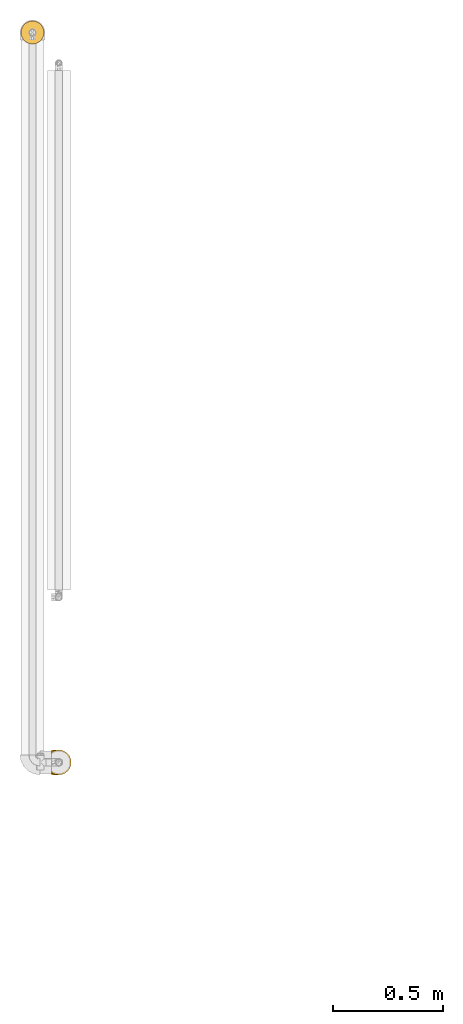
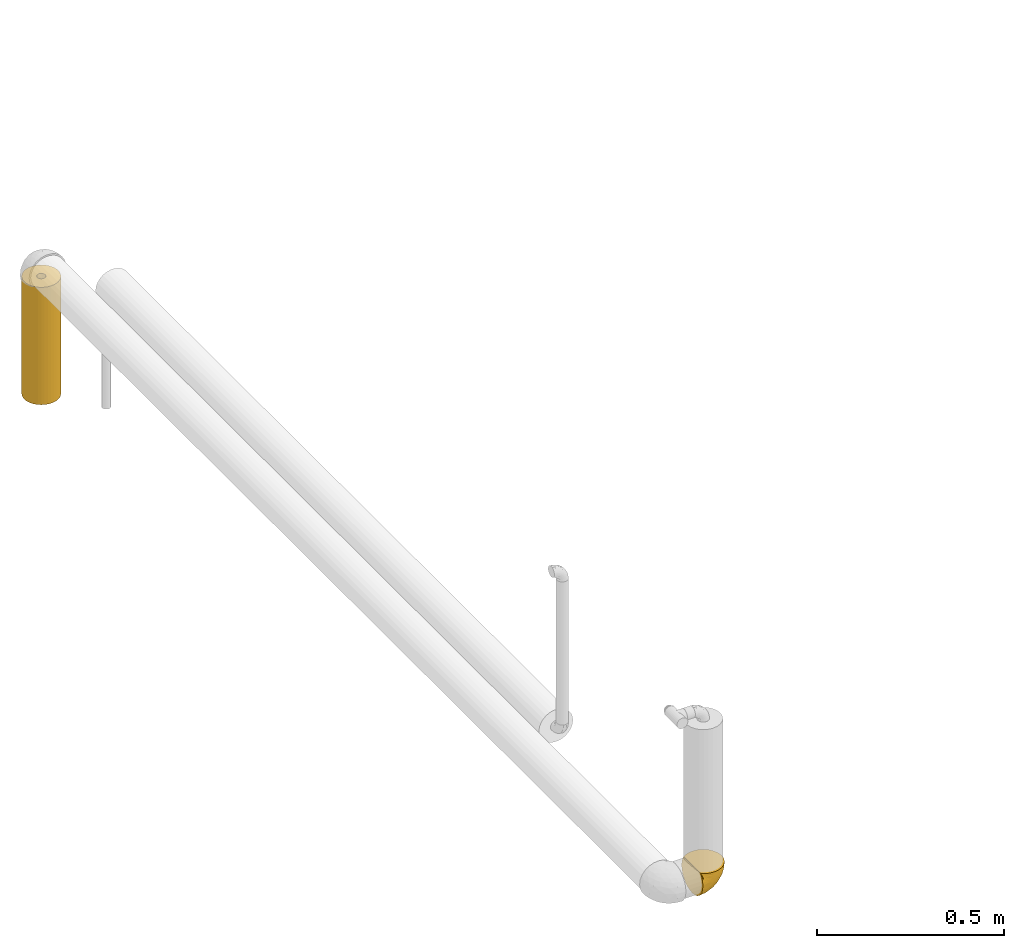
# One storey, part 2 of 17: 2 coverings.
"""IFC2X3 building model written with IfcOpenShell, lengths in millimetres."""

from ifc_helpers import new_model, entity, si_unit, converted_unit, derived_unit, direction, frame, origin_with_axes, place, context, subcontext, project, spatial, open_shell, faceted_brep, surface_model, source, transform, mapped, element, save


model = new_model("IFC2X3")

# Units and contexts
model_context = context("Model", 3, precision=0.01, world=frame((0.0, 4.29681676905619e-09, 0.0)), true_north=direction((4.01073788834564e-13, 1.0)))
plan_context = context("Plan", 3, precision=0.01, world=frame((0.0, 4.29681676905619e-09, 0.0)), true_north=direction((4.01073788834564e-13, 1.0)))
body_context = subcontext(model_context, "Body", "Model", "MODEL_VIEW")
ifc_project = project(units=[converted_unit("PLANEANGLEUNIT", "DEGREE", entity("IfcPositiveLengthMeasure", 0.0174532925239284), si_unit("PLANEANGLEUNIT", "RADIAN"), dimensions=[0, 0, 0, 0, 0, 0, 0]), si_unit("AREAUNIT", "SQUARE_METRE"), si_unit("LENGTHUNIT", "METRE", prefix="MILLI"), si_unit("MASSUNIT", "GRAM", prefix="KILO"), si_unit("POWERUNIT", "WATT"), si_unit("PRESSUREUNIT", "PASCAL", prefix="KILO"), si_unit("FORCEUNIT", "NEWTON", prefix="KILO"), si_unit("ELECTRICVOLTAGEUNIT", "VOLT"), si_unit("ELECTRICCURRENTUNIT", "AMPERE"), si_unit("THERMODYNAMICTEMPERATUREUNIT", "DEGREE_CELSIUS"), si_unit("TIMEUNIT", "SECOND"), si_unit("VOLUMEUNIT", "CUBIC_METRE"), derived_unit("LINEARVELOCITYUNIT", [(si_unit("LENGTHUNIT", "METRE"), 1), (si_unit("TIMEUNIT", "SECOND"), -1)]), derived_unit("VOLUMETRICFLOWRATEUNIT", [(si_unit("VOLUMEUNIT", "CUBIC_METRE"), 1), (si_unit("TIMEUNIT", "SECOND"), -1)]), derived_unit("THERMALTRANSMITTANCEUNIT", [(si_unit("POWERUNIT", "WATT"), 1), (si_unit("THERMODYNAMICTEMPERATUREUNIT", "KELVIN"), -1), (si_unit("AREAUNIT", "SQUARE_METRE"), -1)]), derived_unit("SOUNDPRESSUREUNIT", [(si_unit("PRESSUREUNIT", "PASCAL"), 1)])], contexts=[model_context, plan_context])

# Site, building, storey
site_placement = place(None, frame((0.0, -4.29681676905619e-09, 0.0), z_axis=(0.0, 0.0, 1.0), x_axis=(1.0, 0.0, 0.0)))
site = spatial("IfcSite", under=ifc_project, at=site_placement, Name="ENGM", CompositionType="ELEMENT")
building_placement = place(site_placement, frame((0.0, 4.29681676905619e-09, 0.0), z_axis=(0.0, 0.0, 1.0), x_axis=(1.0, 0.0, 0.0)))
building = spatial("IfcBuilding", under=site, at=building_placement, Name="TI", CompositionType="ELEMENT")
storey_placement = place(building_placement, frame((0.0, 0.0, 207370.0), z_axis=(0.0, 0.0, 1.0), x_axis=(1.0, 0.0, 0.0)))
storey = spatial("IfcBuildingStorey", under=building, at=storey_placement, Name="Nivå E", CompositionType="ELEMENT", Elevation=207370.0)

# Coverings
shared_shape = source(origin_with_axes(), body_context, "Body", "SurfaceModel", [
    surface_model("IfcShellBasedSurfaceModel", [(24.69442, 33.8, 51.26203), (35.48425, 33.8, 44.48008), (51.27108, 33.8, 24.67561), (44.4937, 33.8, 35.46718), (0.0, 33.8, 56.9), (12.66523, 33.8, 55.47253), (-33.34059, 33.8, -46.10873), (56.9, 33.8, 0.0), (55.47253, 33.8, -12.66523), (44.48008, 33.8, -35.48425), (51.26203, 33.8, -24.69442), (35.46718, 33.8, -44.4937), (-23.07704, 33.8, -52.01019), (-11.7964, 33.8, -55.66377), (24.67561, 33.8, -51.27108), (12.64674, 33.8, -55.47675), (0.0, 33.8, -56.9), (55.47675, 33.8, 12.64674), (-33.8, 33.34059, 46.10873), (-33.8, 33.34059, -46.10873), (-33.8, 23.06476, -52.01564), (-33.8, 11.78813, -55.66552), (-33.8, 0.0, -56.9), (-33.8, 0.0, 56.9), (-33.8, 23.06476, 52.01564), (-33.8, 11.78813, 55.66552), (-33.8, -14.7268, 54.96118), (-33.8, -14.7268, -54.96118), (-33.8, -28.45, -49.27684), (-33.8, -40.23438, -40.23438), (-33.8, -49.27684, -28.45), (-33.8, -54.96118, -14.7268), (-33.8, -54.96118, 14.7268), (-33.8, -40.23438, 40.23438), (-33.8, -28.45, 49.27684), (-33.8, -49.27684, 28.45), (-33.8, -56.9, 0.0), (-33.47515, 33.47515, 46.10873), (-33.47515, 33.47515, -46.10873), (-33.34059, 33.8, 46.10873), (-32.08364, 25.44579, -50.9801), (-33.67665, 33.39168, -46.10873), (-30.83312, 26.67841, -50.56853), (-15.87334, 20.68765, -55.70718), (-10.71417, 10.71417, -56.9), (-22.5985, 20.69411, -54.43708), (-25.35, 2.26417, -56.9), (-28.51435, 18.40378, -54.135), (-23.15334, 12.21937, -56.06086), (-33.43341, 33.5759, -46.10873), (-33.39168, 33.67665, -46.10873), (-18.4122, 28.52188, -54.13163), (-25.86292, 27.59402, -51.71796), (-10.594, 29.15837, -55.99022), (-2.26417, 25.35, -56.9), (-33.5759, 33.43341, -46.10873), (-9.88716, 23.89498, -56.34654), (-4.52834, 16.9, -56.9), (-26.53944, 21.15799, -53.5551), (-29.02753, 27.72284, -50.57484), (-16.9, 4.52834, -56.9), (-1.89548, 26.72596, -56.9), (-21.08164, -9.83471, -55.69449), (-12.19459, -6.31894, -55.67005), (1.29929, -23.83547, -45.86), (-3.44185, -39.07106, -34.63852), (-16.08681, -32.30654, -45.14181), (-12.53249, -17.54431, -52.56875), (-24.14956, -20.93038, -52.56875), (19.51212, -39.57784, 0.0), (-5.77216, -52.46082, 0.0), (2.43768, -47.9375, -12.04628), (27.50756, -27.50756, -20.95211), (9.13936, -40.31341, -23.42618), (12.63976, -31.02468, -33.56907), (29.0814, 21.55934, -48.18545), (17.10597, 20.64085, -53.71172), (-15.67837, -54.0783, -10.47602), (-20.00402, -43.92696, -34.63852), (-11.38936, -49.61057, -21.77469), (25.8449, -21.54003, -31.23005), (42.40332, -10.087, -17.51383), (18.75415, -18.3345, -40.2421), (10.4419, -13.49624, -47.73768), (21.60417, -5.46943, -45.54281), (9.23089, 7.63542, -54.43656), (24.82732, 7.97866, -48.18545), (37.87075, 15.27302, -40.2421), (-0.20989, 3.79953, -55.7794), (50.92012, 11.89905, -18.79808), (30.72116, -7.8177, -37.28829), (41.22013, 0.75864, -30.27981), (46.66377, 18.13685, -30.27981), (18.39178, -38.38046, -13.50943), (32.12068, -27.27232, -9.7235), (52.46082, 5.77216, 0.0), (39.57784, -19.51212, 0.0), (-26.72596, 1.89548, -56.9), (1.285, -6.94906, -53.27967), (24.84384, 7.9713, 48.17409), (29.09917, 21.55599, 48.17409), (17.12404, 20.63566, 53.70514), (-16.07985, -54.20588, 10.23371), (-2.14575, -46.559, 21.77469), (1.72334, -48.57904, 10.55822), (14.17314, -39.78008, 17.81974), (-19.63149, -51.39867, 21.77469), (31.54782, -1.01192, 40.22682), (30.88333, -13.90178, 32.6927), (41.23057, 0.75415, 30.26172), (18.76512, -18.34538, 40.22666), (20.72445, -26.00089, 31.88611), (50.9267, 11.89822, 18.77928), (-16.6221, -7.67112, 55.80919), (-16.9, 4.52834, 56.9), (-25.35, 2.26417, 56.9), (-13.80199, -42.5668, 34.63852), (-21.83958, -33.58531, 45.14181), (-19.37969, -19.87123, 52.56875), (7.60894, -34.46398, 33.43332), (-7.48103, -29.3755, 45.14181), (26.00634, -33.17128, 10.14462), (27.51051, -27.51051, 20.94155), (-25.39793, -9.93514, 55.87819), (46.67489, 18.13455, 30.26172), (-1.12035, 1.70754, 55.61965), (-4.52834, 16.9, 56.9), (-10.71417, 10.71417, 56.9), (42.40865, -10.09182, 17.4921), (37.8857, 15.26915, 40.22666), (9.23512, 7.61904, 54.43287), (-1.89548, 26.72596, 56.9), (6.61304, -17.87206, 47.18516), (-9.78518, -15.45307, 52.88466), (14.61926, -5.8279, 49.09168), (-9.48758, -2.99227, 55.96008), (7.94789, -26.49594, 40.91874), (-1.31124, -9.39277, 53.17563), (-29.15757, 10.59376, 55.9903), (-23.89175, 9.87937, 56.34772), (-24.61782, 17.65103, 54.82579), (-29.75291, 25.81063, 51.18968), (-28.51435, 18.40378, 54.135), (-15.87334, 20.68765, 55.70718), (-25.86292, 27.59402, 51.71796), (-22.5985, 20.69411, 54.43708), (-26.85079, 30.69652, 50.51467), (-33.39168, 33.67665, 46.10873), (-33.43341, 33.5759, 46.10873), (-11.775, 33.8, 55.6683), (-23.05704, 33.8, 52.01906), (-25.55723, 31.93363, 50.94173), (-18.39517, 28.5074, 54.13837), (-2.26417, 25.35, 56.9), (-33.67665, 33.39168, 46.10873), (-28.3466, 27.59544, 50.84629), (-33.5759, 33.43341, 46.10873)], [open_shell([[[0, 1, 2]], [[2, 1, 3]], [[4, 5, 0]], [[6, 7, 8]], [[6, 8, 9]], [[9, 8, 10]], [[6, 9, 11]], [[12, 6, 13]], [[14, 6, 11]], [[15, 6, 14]], [[16, 13, 6]], [[16, 6, 15]], [[7, 6, 17]], [[18, 19, 20]], [[21, 22, 20]], [[23, 20, 22]], [[24, 18, 25]], [[20, 25, 18]], [[20, 23, 25]], [[22, 26, 23]], [[22, 27, 26]], [[27, 28, 29]], [[29, 30, 31]], [[29, 31, 27]], [[27, 31, 32]], [[33, 34, 32]], [[33, 32, 35]], [[34, 27, 32]], [[31, 36, 32]], [[27, 34, 26]], [[19, 18, 37]], [[38, 19, 37]], [[39, 6, 37]], [[38, 37, 6]], [[40, 41, 42]], [[43, 44, 45]], [[46, 47, 48]], [[49, 50, 51]], [[19, 41, 40]], [[21, 20, 40]], [[52, 38, 49]], [[13, 53, 12]], [[49, 51, 52]], [[43, 45, 52]], [[12, 50, 6]], [[53, 16, 54]], [[41, 55, 42]], [[43, 56, 57]], [[12, 51, 50]], [[56, 53, 54]], [[48, 47, 58]], [[57, 56, 54]], [[52, 45, 59]], [[51, 56, 43]], [[51, 43, 52]], [[44, 60, 45]], [[43, 57, 44]], [[19, 40, 20]], [[42, 58, 47]], [[58, 59, 45]], [[40, 42, 47]], [[38, 59, 55]], [[59, 42, 55]], [[48, 45, 60]], [[59, 58, 42]], [[52, 59, 38]], [[45, 48, 58]], [[46, 22, 21]], [[46, 21, 47]], [[48, 60, 46]], [[53, 56, 51]], [[12, 53, 51]], [[53, 13, 16]], [[61, 16, 15]], [[62, 60, 63]], [[64, 65, 66]], [[67, 68, 62]], [[69, 70, 71]], [[72, 73, 74]], [[75, 76, 14]], [[68, 28, 27]], [[31, 77, 36]], [[28, 66, 29]], [[78, 30, 29]], [[28, 68, 66]], [[71, 79, 73]], [[30, 78, 79]], [[72, 80, 81]], [[82, 83, 84]], [[85, 57, 76]], [[76, 86, 85]], [[87, 86, 75]], [[87, 11, 9]], [[76, 57, 61]], [[76, 15, 14]], [[44, 88, 63]], [[89, 10, 8]], [[90, 87, 91]], [[92, 87, 9]], [[81, 91, 89]], [[69, 93, 94]], [[90, 91, 80]], [[30, 79, 31]], [[9, 10, 92]], [[8, 95, 89]], [[8, 7, 95]], [[91, 92, 89]], [[72, 74, 80]], [[81, 95, 96]], [[73, 79, 65]], [[14, 11, 75]], [[77, 79, 71]], [[61, 15, 76]], [[64, 66, 67]], [[78, 66, 65]], [[27, 22, 97]], [[86, 90, 84]], [[85, 98, 88]], [[89, 92, 10]], [[87, 92, 91]], [[87, 75, 11]], [[76, 75, 86]], [[95, 81, 89]], [[94, 81, 96]], [[98, 64, 67]], [[64, 82, 74]], [[63, 67, 62]], [[85, 86, 84]], [[74, 73, 65]], [[73, 93, 71]], [[73, 72, 93]], [[77, 71, 70]], [[36, 77, 70]], [[31, 79, 77]], [[94, 93, 72]], [[69, 71, 93]], [[81, 94, 72]], [[69, 94, 96]], [[64, 74, 65]], [[85, 88, 57]], [[74, 82, 80]], [[90, 80, 82]], [[81, 80, 91]], [[84, 90, 82]], [[87, 90, 86]], [[83, 82, 64]], [[84, 83, 85]], [[64, 98, 83]], [[85, 83, 98]], [[66, 78, 29]], [[79, 78, 65]], [[62, 27, 97]], [[66, 68, 67]], [[27, 62, 68]], [[60, 62, 97]], [[44, 63, 60]], [[98, 67, 63]], [[63, 88, 98]], [[57, 88, 44]], [[99, 100, 101]], [[36, 70, 102]], [[103, 104, 105]], [[102, 103, 106]], [[107, 108, 109]], [[35, 32, 106]], [[110, 111, 108]], [[2, 112, 17]], [[113, 114, 115]], [[95, 17, 112]], [[106, 116, 35]], [[103, 102, 104]], [[33, 117, 34]], [[34, 117, 118]], [[0, 5, 101]], [[119, 120, 116]], [[121, 122, 105]], [[118, 113, 123]], [[2, 3, 124]], [[34, 118, 26]], [[125, 126, 127]], [[112, 2, 124]], [[7, 17, 95]], [[128, 112, 109]], [[108, 128, 109]], [[3, 1, 129]], [[130, 99, 101]], [[109, 124, 129]], [[1, 0, 100]], [[109, 129, 107]], [[101, 126, 130]], [[33, 35, 116]], [[119, 103, 105]], [[100, 129, 1]], [[107, 129, 99]], [[5, 4, 131]], [[126, 101, 131]], [[112, 128, 95]], [[120, 132, 133]], [[5, 131, 101]], [[110, 134, 132]], [[134, 99, 130]], [[119, 116, 103]], [[117, 116, 120]], [[127, 135, 125]], [[134, 110, 107]], [[113, 135, 114]], [[26, 123, 23]], [[136, 110, 132]], [[101, 100, 0]], [[129, 100, 99]], [[129, 124, 3]], [[112, 124, 109]], [[121, 128, 122]], [[95, 128, 96]], [[125, 134, 130]], [[135, 127, 114]], [[132, 134, 137]], [[123, 113, 115]], [[133, 113, 118]], [[23, 123, 115]], [[118, 123, 26]], [[134, 107, 99]], [[108, 107, 110]], [[110, 136, 111]], [[128, 108, 122]], [[105, 111, 119]], [[122, 108, 111]], [[133, 132, 137]], [[136, 120, 119]], [[116, 117, 33]], [[118, 117, 120]], [[120, 133, 118]], [[135, 133, 137]], [[133, 135, 113]], [[135, 137, 125]], [[134, 125, 137]], [[126, 125, 130]], [[102, 106, 32]], [[116, 106, 103]], [[36, 102, 32]], [[102, 70, 104]], [[70, 69, 104]], [[121, 105, 104]], [[121, 104, 69]], [[105, 122, 111]], [[69, 96, 121]], [[128, 121, 96]], [[120, 136, 132]], [[111, 136, 119]], [[115, 138, 23]], [[114, 139, 115]], [[140, 141, 142]], [[143, 144, 145]], [[146, 147, 148]], [[25, 138, 24]], [[149, 150, 151]], [[143, 152, 144]], [[152, 153, 149]], [[154, 18, 24]], [[153, 4, 149]], [[146, 151, 147]], [[37, 144, 148]], [[139, 138, 115]], [[139, 140, 142]], [[142, 154, 24]], [[141, 154, 142]], [[155, 156, 141]], [[145, 127, 143]], [[39, 147, 151]], [[146, 144, 152]], [[144, 146, 148]], [[152, 143, 126]], [[127, 145, 114]], [[127, 126, 143]], [[151, 146, 152]], [[149, 151, 152]], [[39, 151, 150]], [[152, 126, 153]], [[140, 114, 145]], [[138, 139, 142]], [[24, 138, 142]], [[138, 25, 23]], [[114, 140, 139]], [[155, 144, 37]], [[145, 144, 155]], [[145, 141, 140]], [[154, 141, 156]], [[156, 155, 37]], [[141, 145, 155]], [[21, 40, 47]], [[6, 150, 149]], [[149, 0, 6]], [[39, 150, 6]], [[2, 6, 0]], [[149, 4, 0]], [[17, 6, 2]]])]),
])
covering_1_placement = place(storey_placement, frame((585389.97776, 570723.24678, 2946.92527000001), z_axis=(0.0, 1.0, 0.0), x_axis=(0.0, 0.0, -1.0)))
element("IfcCovering", 1, at=covering_1_placement, inside=storey, Name="BI11T - Rørskål m/Al.folie - varme 60-25", PredefinedType="INSULATION", context=body_context, shape_type="MappedRepresentation", body=[
    mapped(shared_shape, transform((0.0, 0.0, 0.0), scale=1.0)),
])
covering_2_placement = place(storey_placement, frame((585269.96633, 574054.33025, 2135.60000000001), z_axis=(0.0, 1.0, 0.0), x_axis=(0.0, 0.0, 1.0)))
element("IfcCovering", 2, at=covering_2_placement, inside=storey, Name="BI11T - Rørskål m/Al.folie - varme 60-25", PredefinedType="INSULATION", context=body_context, shape_type="Brep", body=[
    faceted_brep([(394.399999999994, 12.3100969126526, -2.17060222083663), (394.399999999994, 12.5, 0.0), (777.5, 12.5, 0.0), (777.5, 12.3100969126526, -2.17060222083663), (394.399999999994, 11.7461577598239, -4.27525179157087), (777.5, 11.7461577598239, -4.27525179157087), (394.399999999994, 10.8253175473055, -6.25000000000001), (777.5, 10.8253175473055, -6.25000000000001), (394.399999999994, 9.57555553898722, -8.03484512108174), (777.5, 9.57555553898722, -8.03484512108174), (394.399999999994, 8.03484512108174, -9.57555553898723), (777.5, 8.03484512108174, -9.57555553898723), (394.399999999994, 6.25, -10.8253175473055), (777.5, 6.25, -10.8253175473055), (394.399999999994, 4.27525179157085, -11.7461577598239), (777.5, 4.27525179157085, -11.7461577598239), (394.399999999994, 2.17060222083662, -12.3100969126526), (777.5, 2.17060222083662, -12.3100969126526), (394.399999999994, -2.29621274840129e-15, -12.5), (777.5, -2.29621274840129e-15, -12.5), (394.399999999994, -2.17060222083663, -12.3100969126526), (777.5, -2.17060222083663, -12.3100969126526), (394.399999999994, -4.27525179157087, -11.7461577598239), (777.5, -4.27525179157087, -11.7461577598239), (394.399999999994, -6.25000000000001, -10.8253175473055), (777.5, -6.25000000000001, -10.8253175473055), (394.399999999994, -8.03484512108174, -9.57555553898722), (777.5, -8.03484512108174, -9.57555553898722), (394.399999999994, -9.57555553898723, -8.03484512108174), (777.5, -9.57555553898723, -8.03484512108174), (394.399999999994, -10.8253175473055, -6.25), (777.5, -10.8253175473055, -6.25), (394.399999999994, -11.7461577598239, -4.27525179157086), (777.5, -11.7461577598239, -4.27525179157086), (394.399999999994, -12.3100969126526, -2.17060222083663), (777.5, -12.3100969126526, -2.17060222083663), (394.399999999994, -12.5, 1.53080849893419e-15), (777.5, -12.5, 1.53080849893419e-15), (394.399999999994, -12.3100969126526, 2.17060222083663), (777.5, -12.3100969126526, 2.17060222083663), (394.399999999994, -11.7461577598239, 4.27525179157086), (777.5, -11.7461577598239, 4.27525179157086), (394.399999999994, -10.8253175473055, 6.25), (777.5, -10.8253175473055, 6.25), (394.399999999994, -9.57555553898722, 8.03484512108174), (777.5, -9.57555553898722, 8.03484512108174), (394.399999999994, -8.03484512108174, 9.57555553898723), (777.5, -8.03484512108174, 9.57555553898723), (394.399999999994, -6.25, 10.8253175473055), (777.5, -6.25, 10.8253175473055), (394.399999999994, -4.27525179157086, 11.7461577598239), (777.5, -4.27525179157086, 11.7461577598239), (394.399999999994, -2.17060222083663, 12.3100969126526), (777.5, -2.17060222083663, 12.3100969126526), (394.399999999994, 7.65404249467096e-16, 12.5), (777.5, 7.65404249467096e-16, 12.5), (394.399999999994, 2.17060222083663, 12.3100969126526), (777.5, 2.17060222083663, 12.3100969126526), (394.399999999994, 4.27525179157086, 11.7461577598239), (777.5, 4.27525179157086, 11.7461577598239), (394.399999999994, 6.25, 10.8253175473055), (777.5, 6.25, 10.8253175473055), (394.399999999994, 8.03484512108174, 9.57555553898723), (777.5, 8.03484512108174, 9.57555553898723), (394.399999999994, 9.57555553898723, 8.03484512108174), (777.5, 9.57555553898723, 8.03484512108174), (394.399999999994, 10.8253175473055, 6.25), (777.5, 10.8253175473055, 6.25), (394.399999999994, 11.7461577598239, 4.27525179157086), (777.5, 11.7461577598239, 4.27525179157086), (394.399999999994, 12.3100969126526, 2.17060222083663), (777.5, 12.3100969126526, 2.17060222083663), (394.399999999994, 52.5, 0.0), (394.399999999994, 51.7024070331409, -9.11652932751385), (777.5, 51.7024070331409, -9.11652932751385), (777.5, 52.5, 0.0), (394.399999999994, 51.7024070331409, 9.11652932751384), (777.5, 51.7024070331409, 9.11652932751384), (394.399999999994, 49.3338625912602, 17.9560575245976), (777.5, 49.3338625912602, 17.9560575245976), (394.399999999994, 45.466333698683, 26.25), (777.5, 45.466333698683, 26.25), (394.399999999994, 40.2173332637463, 33.7463495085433), (777.5, 40.2173332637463, 33.7463495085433), (394.399999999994, 33.7463495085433, 40.2173332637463), (777.5, 33.7463495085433, 40.2173332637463), (394.399999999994, 26.25, 45.466333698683), (777.5, 26.25, 45.466333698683), (394.399999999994, 17.9560575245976, 49.3338625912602), (777.5, 17.9560575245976, 49.3338625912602), (394.399999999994, 9.11652932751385, 51.7024070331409), (777.5, 9.11652932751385, 51.7024070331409), (394.399999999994, 3.2146978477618e-15, 52.5), (777.5, 3.2146978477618e-15, 52.5), (394.399999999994, -9.11652932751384, 51.7024070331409), (777.5, -9.11652932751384, 51.7024070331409), (394.399999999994, -17.9560575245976, 49.3338625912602), (777.5, -17.9560575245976, 49.3338625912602), (394.399999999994, -26.25, 45.466333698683), (777.5, -26.25, 45.466333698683), (394.399999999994, -33.7463495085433, 40.2173332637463), (777.5, -33.7463495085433, 40.2173332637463), (394.399999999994, -40.2173332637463, 33.7463495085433), (777.5, -40.2173332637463, 33.7463495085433), (394.399999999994, -45.466333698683, 26.25), (777.5, -45.466333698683, 26.25), (394.399999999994, -49.3338625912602, 17.9560575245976), (777.5, -49.3338625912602, 17.9560575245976), (394.399999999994, -51.7024070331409, 9.11652932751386), (777.5, -51.7024070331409, 9.11652932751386), (394.399999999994, -52.5, 6.4293956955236e-15), (777.5, -52.5, 6.4293956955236e-15), (394.399999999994, -51.7024070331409, -9.11652932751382), (777.5, -51.7024070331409, -9.11652932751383), (394.399999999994, -49.3338625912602, -17.9560575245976), (777.5, -49.3338625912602, -17.9560575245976), (394.399999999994, -45.466333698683, -26.25), (777.5, -45.466333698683, -26.25), (394.399999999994, -40.2173332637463, -33.7463495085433), (777.5, -40.2173332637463, -33.7463495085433), (394.399999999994, -33.7463495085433, -40.2173332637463), (777.5, -33.7463495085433, -40.2173332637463), (394.399999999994, -26.25, -45.466333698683), (777.5, -26.25, -45.466333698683), (394.399999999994, -17.9560575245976, -49.3338625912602), (777.5, -17.9560575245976, -49.3338625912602), (394.399999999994, -9.11652932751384, -51.7024070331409), (777.5, -9.11652932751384, -51.7024070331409), (394.399999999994, -9.64409354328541e-15, -52.5), (777.5, -9.64409354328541e-15, -52.5), (394.399999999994, 9.11652932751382, -51.7024070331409), (777.5, 9.11652932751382, -51.7024070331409), (394.399999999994, 17.9560575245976, -49.3338625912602), (777.5, 17.9560575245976, -49.3338625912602), (394.399999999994, 26.25, -45.466333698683), (777.5, 26.25, -45.466333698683), (394.399999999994, 33.7463495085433, -40.2173332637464), (777.5, 33.7463495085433, -40.2173332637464), (394.399999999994, 40.2173332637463, -33.7463495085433), (777.5, 40.2173332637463, -33.7463495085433), (394.399999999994, 45.466333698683, -26.25), (777.5, 45.466333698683, -26.25), (394.399999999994, 49.3338625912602, -17.9560575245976), (777.5, 49.3338625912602, -17.9560575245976)], [[[0, 1, 2, 3]], [[4, 0, 3, 5]], [[6, 4, 5, 7]], [[8, 6, 7, 9]], [[10, 8, 9, 11]], [[12, 10, 11, 13]], [[14, 12, 13, 15]], [[16, 14, 15, 17]], [[18, 16, 17, 19]], [[20, 18, 19, 21]], [[22, 20, 21, 23]], [[24, 22, 23, 25]], [[26, 24, 25, 27]], [[28, 26, 27, 29]], [[30, 28, 29, 31]], [[32, 30, 31, 33]], [[34, 32, 33, 35]], [[36, 34, 35, 37]], [[38, 36, 37, 39]], [[40, 38, 39, 41]], [[42, 40, 41, 43]], [[44, 42, 43, 45]], [[46, 44, 45, 47]], [[48, 46, 47, 49]], [[50, 48, 49, 51]], [[52, 50, 51, 53]], [[54, 52, 53, 55]], [[56, 54, 55, 57]], [[58, 56, 57, 59]], [[60, 58, 59, 61]], [[62, 60, 61, 63]], [[64, 62, 63, 65]], [[66, 64, 65, 67]], [[68, 66, 67, 69]], [[70, 68, 69, 71]], [[1, 70, 71, 2]], [[72, 73, 74, 75]], [[76, 72, 75, 77]], [[78, 76, 77, 79]], [[80, 78, 79, 81]], [[82, 80, 81, 83]], [[84, 82, 83, 85]], [[86, 84, 85, 87]], [[88, 86, 87, 89]], [[90, 88, 89, 91]], [[92, 90, 91, 93]], [[94, 92, 93, 95]], [[96, 94, 95, 97]], [[98, 96, 97, 99]], [[100, 98, 99, 101]], [[102, 100, 101, 103]], [[104, 102, 103, 105]], [[106, 104, 105, 107]], [[108, 106, 107, 109]], [[110, 108, 109, 111]], [[112, 110, 111, 113]], [[114, 112, 113, 115]], [[116, 114, 115, 117]], [[118, 116, 117, 119]], [[120, 118, 119, 121]], [[122, 120, 121, 123]], [[124, 122, 123, 125]], [[126, 124, 125, 127]], [[128, 126, 127, 129]], [[130, 128, 129, 131]], [[132, 130, 131, 133]], [[134, 132, 133, 135]], [[136, 134, 135, 137]], [[138, 136, 137, 139]], [[140, 138, 139, 141]], [[142, 140, 141, 143]], [[73, 142, 143, 74]], [[75, 74, 143, 141, 139, 137, 135, 133, 131, 129, 127, 125, 123, 121, 119, 117, 115, 113, 111, 109, 107, 105, 103, 101, 99, 97, 95, 93, 91, 89, 87, 85, 83, 81, 79, 77], [2, 71, 69, 67, 65, 63, 61, 59, 57, 55, 53, 51, 49, 47, 45, 43, 41, 39, 37, 35, 33, 31, 29, 27, 25, 23, 21, 19, 17, 15, 13, 11, 9, 7, 5, 3]], [[76, 78, 80, 82, 84, 86, 88, 90, 92, 94, 96, 98, 100, 102, 104, 106, 108, 110, 112, 114, 116, 118, 120, 122, 124, 126, 128, 130, 132, 134, 136, 138, 140, 142, 73, 72], [4, 6, 8, 10, 12, 14, 16, 18, 20, 22, 24, 26, 28, 30, 32, 34, 36, 38, 40, 42, 44, 46, 48, 50, 52, 54, 56, 58, 60, 62, 64, 66, 68, 70, 1, 0]]], orient=[[False], [False], [False], [False], [False], [False], [False], [False], [False], [False], [False], [False], [False], [False], [False], [False], [False], [False], [False], [False], [False], [False], [False], [False], [False], [False], [False], [False], [False], [False], [False], [False], [False], [False], [False], [False], [False], [False], [False], [False], [False], [False], [False], [False], [False], [False], [False], [False], [False], [False], [False], [False], [False], [False], [False], [False], [False], [False], [False], [False], [False], [False], [False], [False], [False], [False], [False], [False], [False], [False], [False], [False], [False, False], [False, False]]),
])

save(model, "model.ifc")
